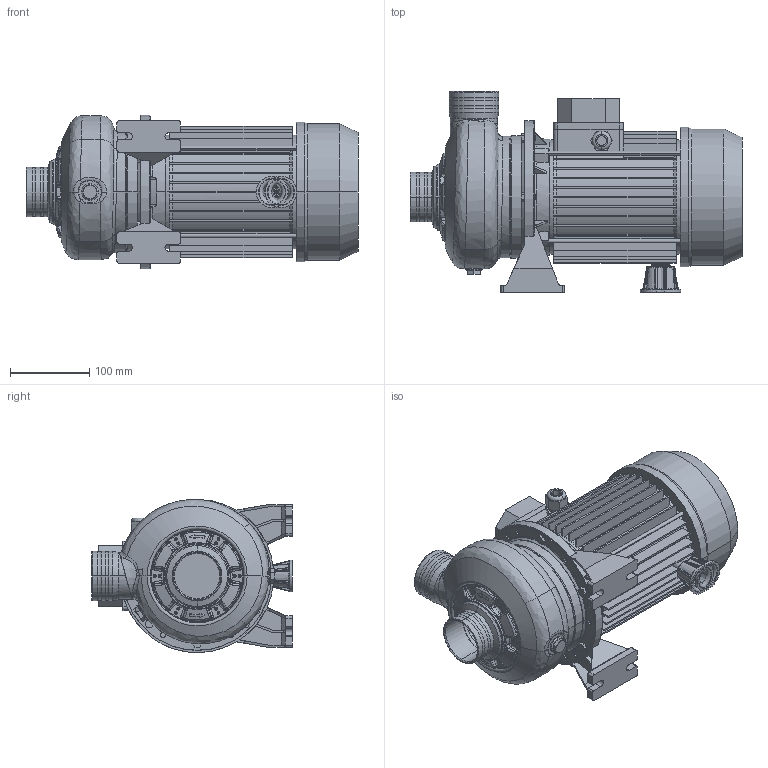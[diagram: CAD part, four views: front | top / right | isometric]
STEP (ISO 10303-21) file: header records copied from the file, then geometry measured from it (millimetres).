
FILE_DESCRIPTION((''),'2;1');
FILE_NAME('DWC_N_500_2_2_IE2_ASM','2011-06-27T',('Utente'),('"Ebara Pumps Europe +39.444.706811"'),'PRO/ENGINEER BY PARAMETRIC TECHNOLOGY CORPORATION, 2009360','PRO/ENGINEER BY PARAMETRIC TECHNOLOGY CORPORATION, 2009360','');
FILE_SCHEMA(('AUTOMOTIVE_DESIGN { 1 0 10303 214 1 1 1 1 }'));
Length unit declared in the file: millimetre
Products named in the file (12): MEC_90X120_IE2; 80598; 251420991; 10054; 76006; 40032; 10192; 62077; 20107_ASM; 72012; 360610016; DWC_N_500_2_2_IE2_ASM
Assembly tree (15 placements, depth 3):
  DWC_N_500_2_2_IE2_ASM
    MEC_90X120_IE2
    80598
    20107_ASM
      251420991
      10054
      76006  x2
      40032  x2
      10192
      62077
    72012  x2
    360610016  x2
Bounding box: 418 x 253 x 192.93 mm (x, y, z)
Volume: 3377744.2 mm3; surface area: 755983.7 mm2
Topology: 14 solids, 14 shells, 1800 faces, 4319 edges, 2598 vertices
Faces by surface type: plane 521, bspline 506, cylinder 308, torus 241, cone 178, sphere 42, extrusion 4
Entity records: 91273 total; most frequent: CARTESIAN_POINT 41424, ORIENTED_EDGE 7716, DIRECTION 6633, EDGE_CURVE 3858, PRESENTATION_STYLE_ASSIGNMENT 3855, STYLED_ITEM 3855, CURVE_STYLE 3846, AXIS2_PLACEMENT_3D 2738
